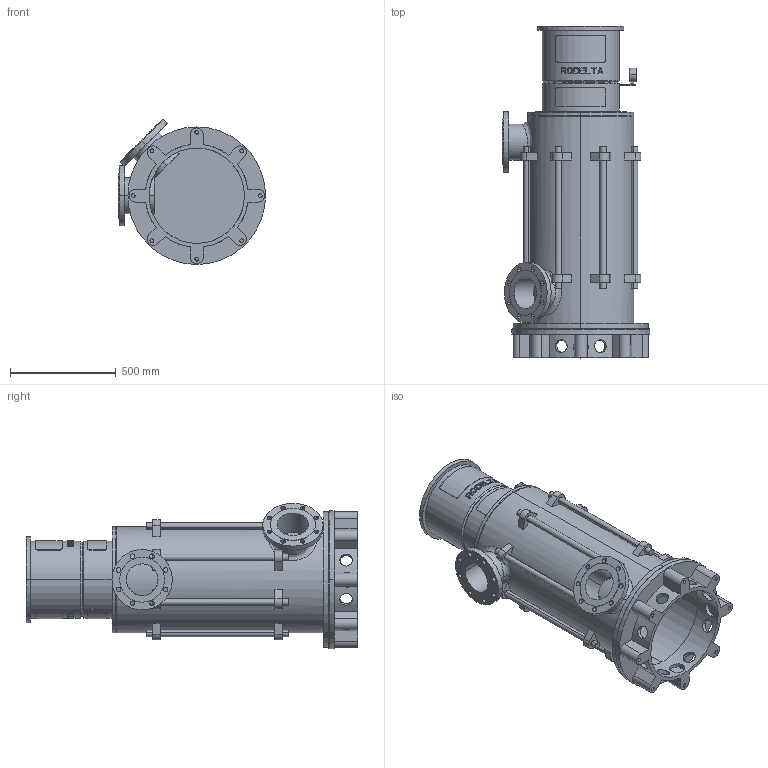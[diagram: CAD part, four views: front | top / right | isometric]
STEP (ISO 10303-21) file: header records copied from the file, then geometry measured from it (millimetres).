
FILE_DESCRIPTION((''),'2;1');
FILE_NAME('LS6_4TR_0GR_PN16_TOT_30KW','2025-10-23T15:01:55',('Lyritlocal'),(''),'CREO PARAMETRIC BY PTC INC, 2022014','CREO PARAMETRIC BY PTC INC, 2022014','');
FILE_SCHEMA(('CONFIG_CONTROL_DESIGN'));
Length unit declared in the file: millimetre
Products named in the file (1): LS6_4TR_0GR_PN16_TOT_30KW
Bounding box: 695 x 1567 x 685.27 mm (x, y, z)
Volume: 48716004.1 mm3; surface area: 6690009.1 mm2
Topology: 3 solids, 11 shells, 744 faces, 1951 edges, 1294 vertices
Faces by surface type: plane 438, cylinder 286, cone 12, bspline 8
Entity records: 25239 total; most frequent: CARTESIAN_POINT 6995, ORIENTED_EDGE 3870, DIRECTION 3585, EDGE_CURVE 1951, AXIS2_PLACEMENT_3D 1353, VERTEX_POINT 1294, EDGE_LOOP 909, VECTOR 879
